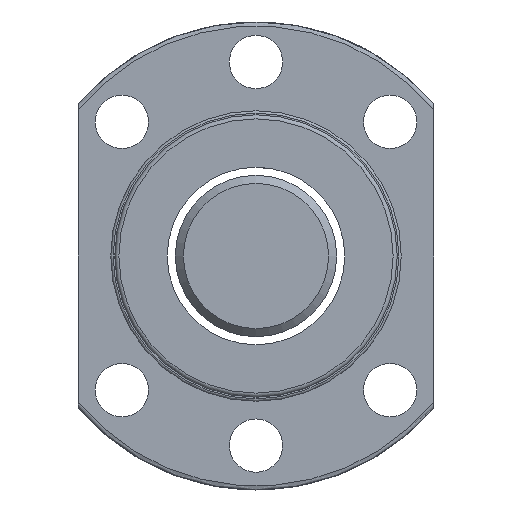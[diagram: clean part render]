
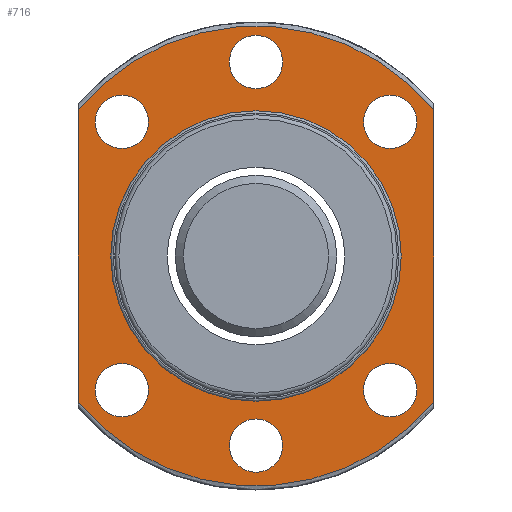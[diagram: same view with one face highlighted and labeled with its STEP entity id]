
A CAD part, left-side view. The second image highlights one B-rep face of the part: STEP entity #716.
In plain terms, the highlighted planar face has unit normal (-1, 0, 0).
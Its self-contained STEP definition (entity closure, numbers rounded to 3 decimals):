
#75=PLANE('',#825);
#106=CIRCLE('',#773,28.5);
#121=CIRCLE('',#804,3.3);
#123=CIRCLE('',#807,3.3);
#125=CIRCLE('',#810,3.3);
#127=CIRCLE('',#813,3.3);
#129=CIRCLE('',#816,3.3);
#131=CIRCLE('',#819,3.3);
#134=CIRCLE('',#824,18.);
#135=CIRCLE('',#826,28.5);
#228=ORIENTED_EDGE('',*,*,#329,.F.);
#229=ORIENTED_EDGE('',*,*,#350,.T.);
#230=ORIENTED_EDGE('',*,*,#372,.F.);
#231=ORIENTED_EDGE('',*,*,#355,.F.);
#232=ORIENTED_EDGE('',*,*,#371,.T.);
#233=ORIENTED_EDGE('',*,*,#358,.T.);
#234=ORIENTED_EDGE('',*,*,#364,.T.);
#235=ORIENTED_EDGE('',*,*,#366,.T.);
#236=ORIENTED_EDGE('',*,*,#368,.T.);
#237=ORIENTED_EDGE('',*,*,#362,.T.);
#238=ORIENTED_EDGE('',*,*,#360,.T.);
#329=EDGE_CURVE('',#409,#410,#106,.T.);
#350=EDGE_CURVE('',#409,#430,#468,.T.);
#355=EDGE_CURVE('',#410,#434,#470,.T.);
#358=EDGE_CURVE('',#436,#436,#121,.T.);
#360=EDGE_CURVE('',#438,#438,#123,.T.);
#362=EDGE_CURVE('',#440,#440,#125,.T.);
#364=EDGE_CURVE('',#442,#442,#127,.T.);
#366=EDGE_CURVE('',#444,#444,#129,.T.);
#368=EDGE_CURVE('',#446,#446,#131,.T.);
#371=EDGE_CURVE('',#449,#449,#134,.T.);
#372=EDGE_CURVE('',#434,#430,#135,.T.);
#409=VERTEX_POINT('',#1132);
#410=VERTEX_POINT('',#1134);
#430=VERTEX_POINT('',#1210);
#434=VERTEX_POINT('',#1233);
#436=VERTEX_POINT('',#1243);
#438=VERTEX_POINT('',#1248);
#440=VERTEX_POINT('',#1253);
#442=VERTEX_POINT('',#1258);
#444=VERTEX_POINT('',#1263);
#446=VERTEX_POINT('',#1268);
#449=VERTEX_POINT('',#1276);
#468=LINE('',#1211,#478);
#470=LINE('',#1232,#480);
#478=VECTOR('',#947,1000.);
#480=VECTOR('',#951,1000.);
#533=EDGE_LOOP('',(#228,#229,#230,#231));
#534=EDGE_LOOP('',(#232));
#535=EDGE_LOOP('',(#233));
#536=EDGE_LOOP('',(#234));
#537=EDGE_LOOP('',(#235));
#538=EDGE_LOOP('',(#236));
#539=EDGE_LOOP('',(#237));
#540=EDGE_LOOP('',(#238));
#627=FACE_BOUND('',#533,.T.);
#628=FACE_BOUND('',#534,.T.);
#629=FACE_BOUND('',#535,.T.);
#630=FACE_BOUND('',#536,.T.);
#631=FACE_BOUND('',#537,.T.);
#632=FACE_BOUND('',#538,.T.);
#633=FACE_BOUND('',#539,.T.);
#634=FACE_BOUND('',#540,.T.);
#716=ADVANCED_FACE('',(#627,#628,#629,#630,#631,#632,#633,#634),#75,.F.);
#773=AXIS2_PLACEMENT_3D('',#1133,#887,#888);
#804=AXIS2_PLACEMENT_3D('',#1242,#955,#956);
#807=AXIS2_PLACEMENT_3D('',#1247,#961,#962);
#810=AXIS2_PLACEMENT_3D('',#1252,#967,#968);
#813=AXIS2_PLACEMENT_3D('',#1257,#973,#974);
#816=AXIS2_PLACEMENT_3D('',#1262,#979,#980);
#819=AXIS2_PLACEMENT_3D('',#1267,#985,#986);
#824=AXIS2_PLACEMENT_3D('',#1275,#995,#996);
#825=AXIS2_PLACEMENT_3D('',#1277,#997,#998);
#826=AXIS2_PLACEMENT_3D('',#1278,#999,#1000);
#887=DIRECTION('',(1.,0.,0.));
#888=DIRECTION('',(0.,0.,-1.));
#947=DIRECTION('',(0.,0.,-1.));
#951=DIRECTION('',(0.,0.,-1.));
#955=DIRECTION('',(1.,0.,0.));
#956=DIRECTION('',(0.,0.,-1.));
#961=DIRECTION('',(1.,0.,0.));
#962=DIRECTION('',(0.,0.,-1.));
#967=DIRECTION('',(1.,0.,0.));
#968=DIRECTION('',(0.,0.,-1.));
#973=DIRECTION('',(1.,0.,0.));
#974=DIRECTION('',(0.,0.,-1.));
#979=DIRECTION('',(1.,0.,0.));
#980=DIRECTION('',(0.,0.,-1.));
#985=DIRECTION('',(1.,0.,0.));
#986=DIRECTION('',(0.,0.,-1.));
#995=DIRECTION('',(1.,0.,0.));
#996=DIRECTION('',(0.,0.,-1.));
#997=DIRECTION('',(1.,0.,0.));
#998=DIRECTION('',(0.,0.,-1.));
#999=DIRECTION('',(1.,0.,0.));
#1000=DIRECTION('',(0.,0.,-1.));
#1132=CARTESIAN_POINT('',(-25.,22.,18.118));
#1133=CARTESIAN_POINT('',(-25.,0.,0.));
#1134=CARTESIAN_POINT('',(-25.,-22.,18.118));
#1210=CARTESIAN_POINT('',(-25.,22.,-18.118));
#1211=CARTESIAN_POINT('',(-25.,22.,0.));
#1232=CARTESIAN_POINT('',(-25.,-22.,0.));
#1233=CARTESIAN_POINT('',(-25.,-22.,-18.118));
#1242=CARTESIAN_POINT('',(-25.,0.,-23.5));
#1243=CARTESIAN_POINT('',(-25.,0.,-26.8));
#1247=CARTESIAN_POINT('',(-25.,0.,24.042));
#1248=CARTESIAN_POINT('',(-25.,0.,20.742));
#1252=CARTESIAN_POINT('',(-25.,16.617,-16.617));
#1253=CARTESIAN_POINT('',(-25.,16.617,-19.917));
#1257=CARTESIAN_POINT('',(-25.,-16.617,-16.617));
#1258=CARTESIAN_POINT('',(-25.,-16.617,-19.917));
#1262=CARTESIAN_POINT('',(-25.,-16.617,16.617));
#1263=CARTESIAN_POINT('',(-25.,-16.617,13.317));
#1267=CARTESIAN_POINT('',(-25.,16.617,16.617));
#1268=CARTESIAN_POINT('',(-25.,16.617,13.317));
#1275=CARTESIAN_POINT('',(-25.,0.,0.));
#1276=CARTESIAN_POINT('',(-25.,0.,-18.));
#1277=CARTESIAN_POINT('',(-25.,23.25,0.));
#1278=CARTESIAN_POINT('',(-25.,0.,0.));
